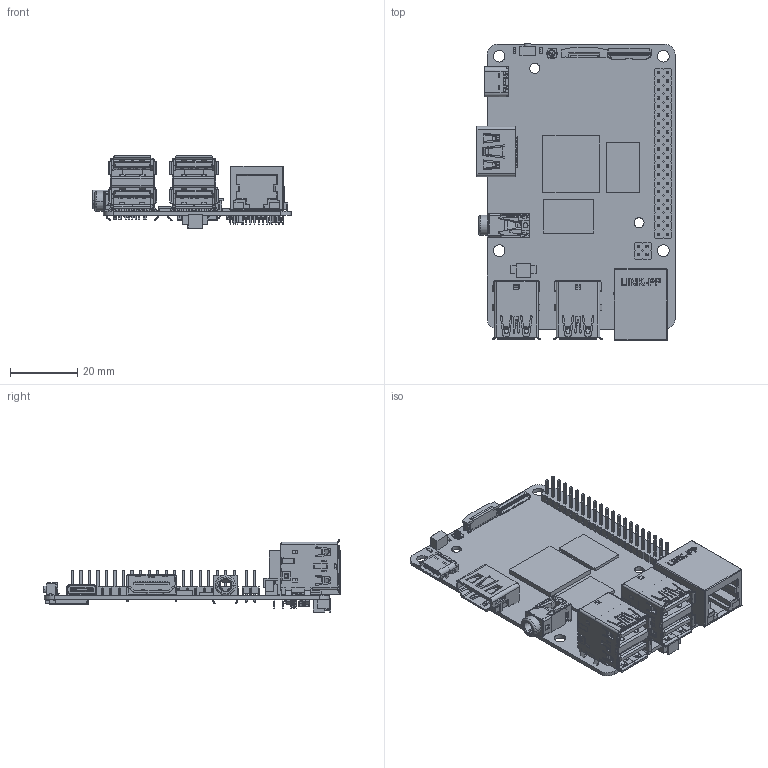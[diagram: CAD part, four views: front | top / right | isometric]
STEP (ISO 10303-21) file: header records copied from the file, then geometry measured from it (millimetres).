
FILE_DESCRIPTION((''),'2;1');
FILE_NAME('5C_PCBA','2024-04-24T15:51:57',('admin'),(''),'CREO PARAMETRIC BY PTC INC, 2024063','CREO PARAMETRIC BY PTC INC, 2024063','');
FILE_SCHEMA(('CONFIG_CONTROL_DESIGN','SHAPE_APPEARANCE_LAYERS_GROUPS'));
Products named in the file (1): 5C_PCBA
Bounding box: 59.1 x 88.47 x 21.54 mm (x, y, z)
Volume: 16961.7 mm3; surface area: 24543 mm2
Topology: 19 solids, 23 shells, 7686 faces, 21997 edges, 14369 vertices
Faces by surface type: plane 5946, cylinder 1528, bspline 108, torus 36, extrusion 25, sphere 24, cone 16, revolution 3
Entity records: 273488 total; most frequent: CARTESIAN_POINT 50995, ORIENTED_EDGE 43946, DIRECTION 39399, EDGE_CURVE 21973, VECTOR 18252, LINE 18227, VERTEX_POINT 14369, AXIS2_PLACEMENT_3D 10572
